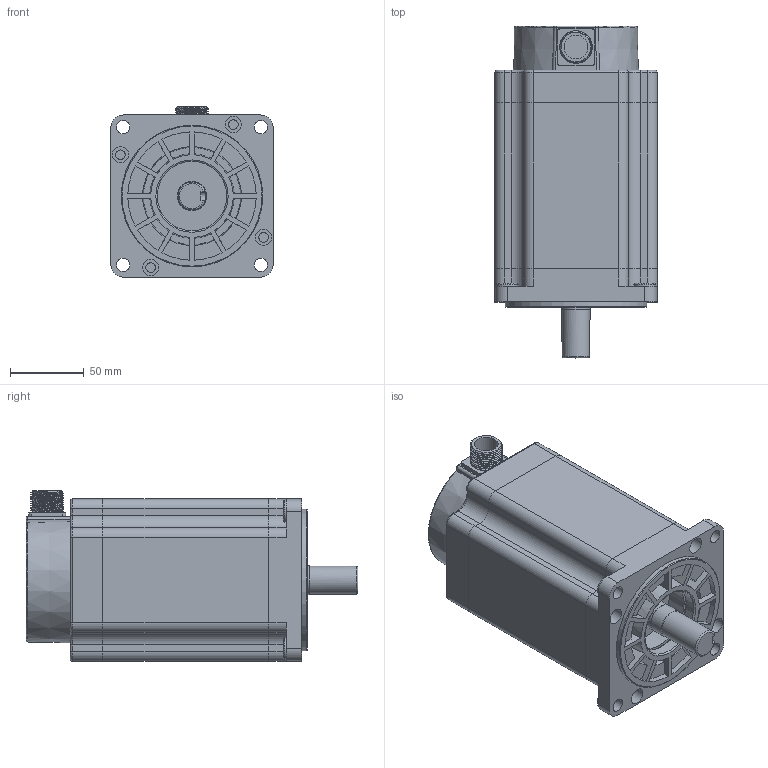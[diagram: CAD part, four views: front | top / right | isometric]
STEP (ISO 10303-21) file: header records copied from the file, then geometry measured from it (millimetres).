
FILE_DESCRIPTION(/* description */ (''),/* implementation_level */ '2;1');
FILE_NAME(/* name */ '110BYG350C(止口φ95).stp',/* time_stamp */ '2024-08-15T16:42:25+08:00',/* author */ (''),/* organization */ (''),/* preprocessor_version */ 'ST-DEVELOPER v18.1',/* originating_system */ 'SIEMENS PLM Software NX 2000',/* authorisation */ '');
FILE_SCHEMA (('AUTOMOTIVE_DESIGN { 1 0 10303 214 3 1 1 1 }'));
Length unit declared in the file: millimetre
Products named in the file (1): 925032A4A3696t5r
Bounding box: 110 x 225 x 115.5 mm (x, y, z)
Volume: 1717862.2 mm3; surface area: 182013.5 mm2
Topology: 5 solids, 5 shells, 413 faces, 1073 edges, 709 vertices
Faces by surface type: plane 198, cylinder 149, torus 31, cone 31, bspline 4
Full cylindrical faces by diameter (mm): 3 x4, 6 x4, 6.5 x8, 9 x4, 11 x4, 15 x4, 16 x1, 19 x1, 19.7 x1, 20 x2, 47 x2, 50 x1, 56 x1, 69 x1, 70 x1, 96 x1
Entity records: 15105 total; most frequent: CARTESIAN_POINT 5084, DIRECTION 2124, ORIENTED_EDGE 1988, EDGE_CURVE 994, AXIS2_PLACEMENT_3D 833, VERTEX_POINT 681, EDGE_LOOP 527, LINE 458
